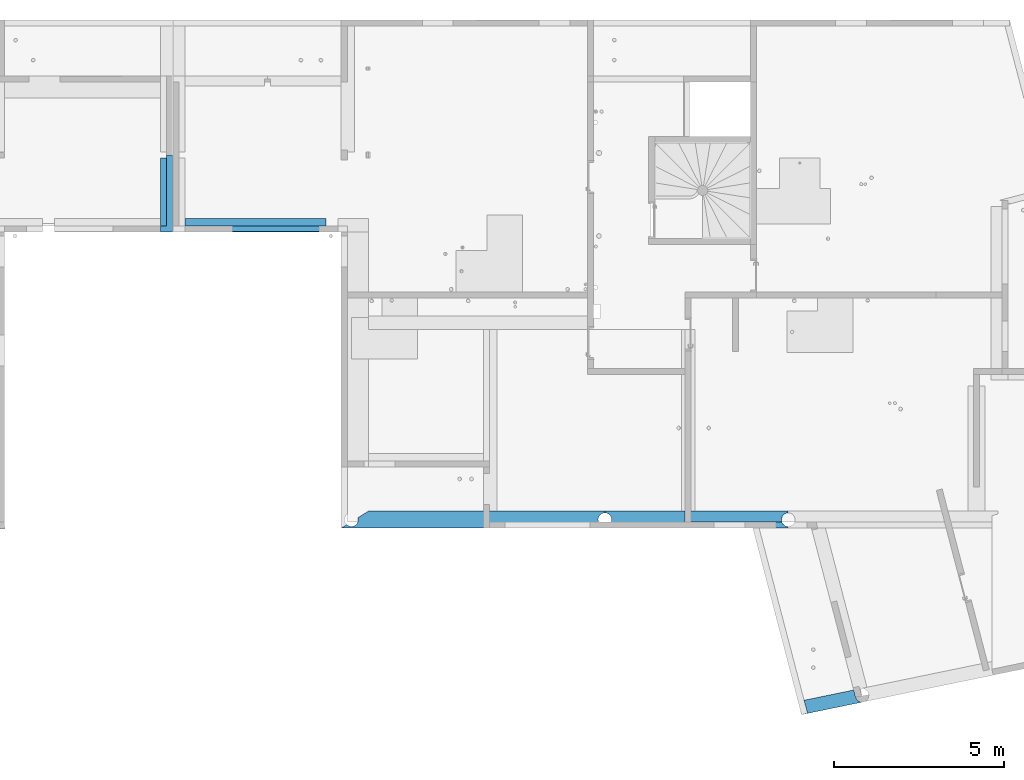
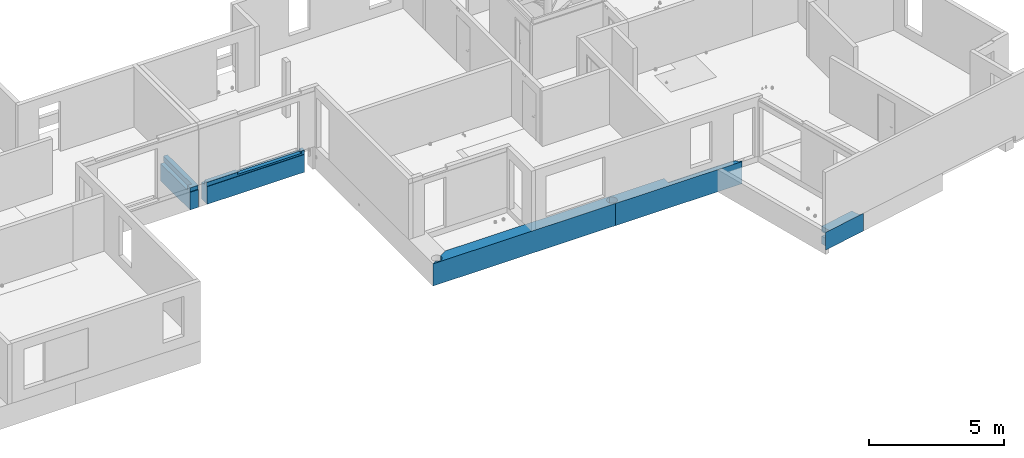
# One storey, part 22 of 34: 5 beams.
"""IFC2X3 building model written with IfcOpenShell, lengths in centimetres."""

from ifc_helpers import new_model, entity, si_unit, converted_unit, derived_unit, direction, frame, origin, place, context, subcontext, project, spatial, faceted_brep, material, material_list, type_object, element, save


model = new_model("IFC2X3")

# Units and contexts
model_context = context("Model", 3, precision=0.001, world=origin(), true_north=direction((6.12303176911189e-17, 1.0)))
body_context = subcontext(model_context, "Body", "Model", "MODEL_VIEW")
ifc_project = project(units=[si_unit("LENGTHUNIT", "METRE", prefix="CENTI"), si_unit("AREAUNIT", "SQUARE_METRE"), si_unit("VOLUMEUNIT", "CUBIC_METRE"), converted_unit("PLANEANGLEUNIT", "DEGREE", entity("IfcRatioMeasure", 0.0174532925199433), si_unit("PLANEANGLEUNIT", "RADIAN"), dimensions=[0, 0, 0, 0, 0, 0, 0]), si_unit("MASSUNIT", "GRAM", prefix="KILO"), derived_unit("MASSDENSITYUNIT", [(si_unit("MASSUNIT", "GRAM", prefix="KILO"), 1), (si_unit("LENGTHUNIT", "METRE"), -3)]), si_unit("TIMEUNIT", "SECOND"), si_unit("FREQUENCYUNIT", "HERTZ"), si_unit("THERMODYNAMICTEMPERATUREUNIT", "DEGREE_CELSIUS"), derived_unit("THERMALTRANSMITTANCEUNIT", [(si_unit("MASSUNIT", "GRAM", prefix="KILO"), 1), (si_unit("THERMODYNAMICTEMPERATUREUNIT", "KELVIN"), -1), (si_unit("TIMEUNIT", "SECOND"), -3)]), derived_unit("VOLUMETRICFLOWRATEUNIT", [(si_unit("LENGTHUNIT", "METRE"), 3), (si_unit("TIMEUNIT", "SECOND"), -1)]), si_unit("ELECTRICCURRENTUNIT", "AMPERE"), si_unit("ELECTRICVOLTAGEUNIT", "VOLT"), si_unit("POWERUNIT", "WATT"), si_unit("FORCEUNIT", "NEWTON"), si_unit("ILLUMINANCEUNIT", "LUX"), si_unit("LUMINOUSFLUXUNIT", "LUMEN"), si_unit("LUMINOUSINTENSITYUNIT", "CANDELA"), derived_unit("USERDEFINED", [(si_unit("MASSUNIT", "GRAM", prefix="KILO"), -1), (si_unit("LENGTHUNIT", "METRE"), -2), (si_unit("TIMEUNIT", "SECOND"), 3), (si_unit("LUMINOUSFLUXUNIT", "LUMEN"), 1)]), derived_unit("LINEARVELOCITYUNIT", [(si_unit("LENGTHUNIT", "METRE"), 1), (si_unit("TIMEUNIT", "SECOND"), -1)]), si_unit("PRESSUREUNIT", "PASCAL"), derived_unit("USERDEFINED", [(si_unit("LENGTHUNIT", "METRE"), -2), (si_unit("MASSUNIT", "GRAM", prefix="KILO"), 1), (si_unit("TIMEUNIT", "SECOND"), -2)])], contexts=[model_context])

# Site, building, storey
site_placement = place(None, origin())
site = spatial("IfcSite", under=ifc_project, at=site_placement, Name="Default", CompositionType="ELEMENT")
building_placement = place(site_placement, origin())
building = spatial("IfcBuilding", under=site, at=building_placement, Name="CAGE 03", CompositionType="ELEMENT")
storey_placement = place(building_placement, frame((0.0, 0.0, 340.0)))
storey = spatial("IfcBuildingStorey", under=building, at=storey_placement, Name="R+1", CompositionType="ELEMENT", Elevation=340.0)

# Beams
ifc_material_1 = material(Name="Béton, C25/30")
ifc_material_2 = material(Name="<Unnamed>")
ifc_material_list = material_list([ifc_material_1, ifc_material_2])
beam_type_1 = type_object("IfcBeamType", Name="40x80ht", PredefinedType="BEAM", material=ifc_material_list)
beam_1_placement = place(storey_placement, frame((10640.4845473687, 3247.32910427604, -80.0), z_axis=(0.0, 0.0, 1.0), x_axis=(0.979414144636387, 0.201861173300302, 0.0)))
element("IfcBeam", 1, at=beam_1_placement, inside=storey, type_object=beam_type_1, material=ifc_material_1, Name="BBGO-Poutre rect:40x80ht", ObjectType="BBGO-Poutre rect:40x80ht", context=body_context, shape_type="Brep", body=[
    faceted_brep([(186.210205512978, 0.0, 0.0), (186.210205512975, 0.0, 80.0), (0.0, 0.0, 80.0), (0.0, 0.0, 0.0), (181.905287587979, 0.468802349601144, 0.0), (17.9754904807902, 0.939011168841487, 0.0), (15.9350062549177, 40.0, 0.0), (165.138167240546, 40.0, 0.0), (166.237438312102, 18.9566542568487, 0.0), (166.930178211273, 14.6820542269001, 0.0), (168.526770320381, 10.6567607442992, 0.0), (170.952366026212, 7.06948051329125, 0.0), (174.093252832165, 4.08838607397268, 0.0), (177.802185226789, 1.85323183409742, 0.0), (165.138167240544, 40.0, 35.0), (15.9350062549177, 40.0, 35.0), (165.138167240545, 40.0, 80.0), (165.138167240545, 40.0, 55.0), (15.9350062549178, 40.0, 55.0), (15.9350062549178, 40.0, 80.0), (170.952366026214, 7.06948051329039, 80.0), (168.526770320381, 10.6567607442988, 80.0), (166.930178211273, 14.6820542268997, 80.0), (166.237438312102, 18.9566542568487, 80.0), (17.9754904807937, 0.939011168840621, 80.0), (181.905287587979, 0.468802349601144, 80.0), (177.802185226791, 1.85323183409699, 80.0), (174.093252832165, 4.08838607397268, 80.0), (17.0842514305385, 18.0, 55.0), (17.0842514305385, 18.0, 35.0), (166.237438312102, 18.9566542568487, 55.0), (166.237438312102, 18.9566542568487, 35.0), (166.287412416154, 18.0, 35.0), (166.287412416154, 18.0, 55.0)], [[[0, 1, 2, 3]], [[4, 0, 3, 5, 6, 7, 8, 9, 10, 11, 12, 13]], [[14, 7, 6, 15]], [[16, 17, 18, 19]], [[20, 21, 22, 23, 16, 19, 24, 2, 1, 25, 26, 27]], [[5, 3, 2, 24]], [[24, 19, 18, 28, 29, 15, 6, 5]], [[16, 23, 30, 17]], [[14, 31, 8, 7]], [[29, 32, 31, 14, 15]], [[28, 18, 17, 30, 33]], [[33, 30, 31, 32]], [[33, 32, 29, 28]], [[9, 8, 31, 30, 23, 22]], [[10, 9, 22, 21]], [[11, 10, 21, 20]], [[13, 12, 27, 26]], [[4, 13, 26, 25]], [[0, 4, 25, 1]], [[27, 12, 11, 20]]]),
])
beam_type_2 = type_object("IfcBeamType", Name="BBGO-Poutre rect:40x100ht", PredefinedType="BEAM")
beam_2_placement = place(storey_placement, frame((8824.36582014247, 4668.66066607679, -100.0)))
element("IfcBeam", 2, at=beam_2_placement, inside=storey, type_object=beam_type_2, material=ifc_material_1, Name="BBGO-Poutre rect:40x100ht", ObjectType="BBGO-Poutre rect:40x100ht", context=body_context, shape_type="Brep", body=[
    faceted_brep([(0.0, 40.0, 0.0), (0.0, 0.0, 0.0), (0.0, 0.0, 80.0), (0.0, 2.0, 80.0), (0.0, 2.0, 99.6099582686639), (0.0, 0.0, 99.5899561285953), (0.0, 0.0, 100.0), (0.0, 18.0, 100.0), (0.0, 18.0, 77.0), (0.0, 40.0, 77.0), (415.999075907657, 0.0, 100.0), (395.0, 0.0, 100.0), (395.0, 0.0, 99.5899561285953), (415.999075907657, 0.0, 99.5899561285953), (415.999075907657, 40.0, 0.0), (415.999075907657, 0.0, 0.0), (415.999075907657, 40.0, 77.0), (415.999075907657, 18.0, 100.0), (403.0, 18.0, 100.0), (403.0, 2.0, 100.0), (395.0, 2.0, 100.0), (415.999075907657, 18.0, 77.0), (415.999075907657, 2.0, 99.6099582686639), (415.999075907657, 2.0, 80.0), (415.999075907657, 0.0, 80.0), (132.0, 18.0, 100.0), (132.0, 18.0, 88.0), (403.0, 18.0, 88.0), (140.0, 0.0, 100.0), (140.0, 0.0, 99.5899561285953), (140.0, 2.0, 99.6099582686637), (140.0, 2.0, 100.0), (395.0, 2.0, 99.6099582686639), (132.0, 2.0, 88.0), (403.0, 2.0, 88.0), (132.0, 2.0, 100.0), (132.0, 2.0, 99.6099582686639), (403.0, 2.0, 99.6099582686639)], [[[0, 1, 2, 3, 4, 5, 6, 7, 8, 9]], [[10, 11, 12, 13]], [[1, 0, 14, 15]], [[14, 0, 9, 16]], [[10, 17, 18, 19, 20, 11]], [[15, 14, 16, 21, 17, 10, 13, 22, 23, 24]], [[9, 8, 21, 16]], [[8, 7, 25, 26, 27, 18, 17, 21]], [[28, 29, 30, 31]], [[12, 11, 20, 32]], [[26, 33, 34, 27]], [[7, 6, 28, 31, 35, 25]], [[23, 3, 2, 24]], [[36, 30, 29, 5, 4]], [[37, 34, 33, 36, 4, 3, 23, 22]], [[37, 32, 20, 19]], [[30, 36, 35, 31]], [[28, 6, 5, 29]], [[1, 15, 24, 2]], [[32, 37, 22, 13, 12]], [[34, 37, 19, 18, 27]], [[36, 33, 26, 25, 35]]]),
])
beam_type_3 = type_object("IfcBeamType", Name="BBGO-Poutre rect:50x100ht", PredefinedType="BEAM")
beam_3_placement = place(storey_placement, frame((9284.36582014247, 3796.66066607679, -100.0)))
element("IfcBeam", 3, at=beam_3_placement, inside=storey, type_object=beam_type_3, material=ifc_material_1, Name="BBGO-Poutre rect:50x100ht", ObjectType="BBGO-Poutre rect:50x100ht", context=body_context, shape_type="Brep", body=[
    faceted_brep([(777.0, 0.0, 0.0), (777.0, 0.0, 100.0), (437.0, 0.0, 100.0), (419.0, 0.0, 100.0), (0.0, 0.0, 100.0), (0.0, 0.0, 0.0), (772.549581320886, 5.50144175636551, 0.0), (777.0, 5.0, 0.0), (16.455365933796, 10.284603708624, 0.0), (20.1925931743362, 7.56971683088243, 0.0), (24.4529837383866, 5.78462567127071, 0.0), (29.0092726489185, 5.02455358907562, 0.0), (33.6184106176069, 5.33004563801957, 0.0), (38.0345291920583, 6.68480574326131, 0.0), (42.0220562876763, 9.01656599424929, 0.0), (45.3682824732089, 12.2009416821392, 0.0), (47.8947076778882, 16.0680664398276, 0.0), (49.4665630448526, 20.4116535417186, 0.0), (50.0, 25.0, 0.0), (49.7895456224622, 27.8937664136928, 0.0), (49.1626115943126, 30.7266322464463, 0.0), (80.0, 50.0, 0.0), (777.0, 50.0, 0.0), (777.0, 45.0, 0.0), (772.549581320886, 44.4985582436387, 0.0), (768.322325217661, 43.0193773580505, 0.0), (764.530203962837, 40.6366296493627, 0.0), (761.363370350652, 37.4697960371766, 0.0), (758.980622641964, 33.6776747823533, 0.0), (757.501441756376, 29.4504186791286, 0.0), (757.0, 25.0, 0.0), (757.501441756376, 20.5495813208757, 0.0), (758.980622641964, 16.3223252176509, 0.0), (761.363370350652, 12.5302039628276, 0.0), (764.530203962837, 9.36337035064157, 0.0), (768.322325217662, 6.98062264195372, 0.0), (80.0, 50.0, 55.0), (419.0, 50.0, 55.0), (419.0, 50.0, 75.0), (80.0, 50.0, 75.0), (80.0, 50.0, 100.0), (419.0, 50.0, 100.0), (459.0, 50.0, 100.0), (777.0, 50.0, 100.0), (772.549581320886, 44.4985582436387, 100.0), (777.0, 45.0, 100.0), (49.1626115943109, 30.7266322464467, 100.0), (49.7895456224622, 27.8937664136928, 100.0), (50.0, 25.0, 100.0), (49.7332815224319, 22.7058267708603, 100.0), (49.4665630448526, 20.4116535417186, 100.0), (48.6806353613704, 18.2398599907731, 100.0), (47.8947076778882, 16.0680664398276, 100.0), (45.3682824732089, 12.2009416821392, 100.0), (42.0220562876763, 9.01656599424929, 100.0), (38.0345291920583, 6.68480574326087, 100.0), (33.6184106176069, 5.33004563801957, 100.0), (29.0092726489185, 5.02455358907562, 100.0), (24.4529837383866, 5.78462567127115, 100.0), (20.1925931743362, 7.56971683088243, 100.0), (16.455365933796, 10.2846037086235, 100.0), (777.0, 5.0, 100.0), (772.549581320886, 5.50144175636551, 100.0), (768.322325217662, 6.98062264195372, 100.0), (764.530203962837, 9.36337035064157, 100.0), (761.363370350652, 12.5302039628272, 100.0), (758.980622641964, 16.3223252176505, 100.0), (757.501441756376, 20.5495813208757, 100.0), (757.0, 25.0, 100.0), (757.501441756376, 29.4504186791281, 100.0), (758.980622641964, 33.6776747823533, 100.0), (761.363370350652, 37.4697960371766, 100.0), (764.530203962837, 40.6366296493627, 100.0), (768.322325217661, 43.0193773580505, 100.0), (49.1626115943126, 30.7266322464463, 30.3099205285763), (49.1626115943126, 30.7266322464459, 55.0), (49.1626115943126, 30.7266322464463, 75.0), (48.7349939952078, 18.0, 55.0), (48.7349939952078, 18.0, 75.0), (49.6812077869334, 21.4433077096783, 55.0), (50.0, 25.0, 55.0), (50.0, 25.0, 30.3099188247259), (50.0, 25.0, 75.0), (49.6812077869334, 21.4433077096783, 75.0), (49.7895455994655, 27.8937665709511, 34.0087949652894), (49.7895456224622, 27.8937664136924, 55.0), (49.7895456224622, 27.8937664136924, 75.0), (419.0, 18.0, 55.0), (419.0, 18.0, 75.0)], [[[0, 1, 2, 3, 4, 5]], [[6, 7, 0, 5, 8, 9, 10, 11, 12, 13, 14, 15, 16, 17, 18, 19, 20, 21, 22, 23, 24, 25, 26, 27, 28, 29, 30, 31, 32, 33, 34, 35]], [[21, 36, 37, 38, 39, 40, 41, 42, 43, 22]], [[44, 45, 43, 42, 41, 40, 46, 47, 48, 49, 50, 51, 52, 53, 54, 55, 56, 57, 58, 59, 60, 4, 3, 2, 1, 61, 62, 63, 64, 65, 66, 67, 68, 69, 70, 71, 72, 73]], [[31, 30, 68, 67]], [[32, 31, 67, 66]], [[33, 32, 66, 65]], [[65, 64, 34, 33]], [[35, 34, 64, 63]], [[6, 35, 63, 62]], [[7, 6, 62, 61]], [[24, 23, 45, 44]], [[25, 24, 44, 73]], [[26, 25, 73, 72]], [[72, 71, 27, 26]], [[28, 27, 71, 70]], [[29, 28, 70, 69]], [[30, 29, 69, 68]], [[8, 5, 4, 60]], [[21, 20, 74, 75, 36]], [[39, 76, 46, 40]], [[1, 0, 7, 61]], [[45, 23, 22, 43]], [[9, 8, 60, 59]], [[9, 59, 58, 10]], [[56, 55, 13, 12]], [[12, 11, 57, 56]], [[11, 10, 58, 57]], [[14, 13, 55, 54]], [[54, 53, 15, 14]], [[16, 15, 53, 52]], [[17, 16, 77]], [[77, 16, 52, 78]], [[79, 18, 17]], [[79, 80, 81, 18]], [[77, 79, 17]], [[51, 50, 78, 52]], [[49, 48, 82]], [[83, 49, 82]], [[83, 50, 49]], [[78, 50, 83]], [[20, 19, 74]], [[75, 84, 85]], [[46, 76, 86, 47]], [[84, 19, 81, 80]], [[18, 81, 19]], [[85, 84, 80]], [[86, 82, 48, 47]], [[19, 84, 75, 74]], [[80, 79, 77, 87, 37, 36, 75, 85]], [[82, 86, 76, 39, 38, 88, 78, 83]], [[38, 37, 87, 88]], [[88, 87, 77, 78]]]),
])
beam_4_placement = place(storey_placement, frame((10061.2070701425, 3796.66066607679, -100.0)))
element("IfcBeam", 4, at=beam_4_placement, inside=storey, type_object=beam_type_3, material=ifc_material_1, Name="BBGO-Poutre rect:50x100ht", ObjectType="BBGO-Poutre rect:50x100ht", context=body_context, shape_type="Brep", body=[
    faceted_brep([(454.420952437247, 0.0, 0.0), (540.15875, 0.0, 0.0), (540.15875, 0.0, 100.0), (504.158749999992, 0.0, 100.0), (454.420952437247, 0.0, 100.0), (435.817262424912, 0.0, 100.0), (0.158749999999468, 0.0, 100.0), (0.158749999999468, 0.0, 0.0), (435.817262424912, 0.0, 0.0), (535.708331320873, 5.50144175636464, 0.0), (540.15875, 5.0, 0.0), (0.158749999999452, 5.0, 0.0), (4.60916867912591, 5.50144175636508, 0.0), (8.83642478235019, 6.98062264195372, 0.0), (12.6285460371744, 9.36337035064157, 0.0), (15.79537964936, 12.5302039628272, 0.0), (18.1781273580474, 16.3223252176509, 0.0), (19.657308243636, 20.5495813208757, 0.0), (20.15875, 25.0, 0.0), (19.657308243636, 29.4504186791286, 0.0), (18.1781273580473, 33.6776747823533, 0.0), (15.7953796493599, 37.4697960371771, 0.0), (12.6285460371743, 40.6366296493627, 0.0), (8.83642478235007, 43.0193773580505, 0.0), (4.60916867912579, 44.4985582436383, 0.0), (0.158749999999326, 45.0, 0.0), (0.15874999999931, 50.0, 0.0), (540.15875, 50.0, 0.0), (540.15875, 45.0, 0.0), (535.708331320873, 44.4985582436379, 0.0), (531.481075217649, 43.0193773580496, 0.0), (527.688953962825, 40.6366296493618, 0.0), (524.522120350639, 37.4697960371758, 0.0), (522.139372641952, 33.6776747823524, 0.0), (520.660191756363, 29.4504186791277, 0.0), (520.158749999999, 25.0, 0.0), (520.660191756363, 20.5495813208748, 0.0), (522.139372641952, 16.3223252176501, 0.0), (524.522120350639, 12.5302039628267, 0.0), (527.688953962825, 9.3633703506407, 0.0), (531.481075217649, 6.98062264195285, 0.0), (265.158749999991, 50.0, 77.0), (540.15875, 50.0, 77.0), (0.15874999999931, 50.0, 100.0), (236.158749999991, 50.0, 100.0), (236.158749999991, 50.0, 77.0), (19.657308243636, 29.4504186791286, 100.0), (20.15875, 25.0, 100.0), (19.657308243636, 20.5495813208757, 100.0), (18.1781273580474, 16.3223252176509, 100.0), (15.79537964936, 12.5302039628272, 100.0), (12.6285460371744, 9.36337035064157, 100.0), (8.83642478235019, 6.98062264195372, 100.0), (4.60916867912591, 5.50144175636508, 100.0), (0.158749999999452, 5.0, 100.0), (540.15875, 5.0, 100.0), (536.140226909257, 5.40787218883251, 100.0), (532.287325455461, 6.61411749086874, 100.0), (528.755327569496, 8.56948093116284, 100.0), (525.688287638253, 11.1939969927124, 100.0), (523.210855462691, 14.38073115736, 100.0), (521.423756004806, 18.0, 100.0), (504.158749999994, 18.0, 100.0), (236.158749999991, 18.0, 100.0), (0.158749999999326, 45.0, 100.0), (4.60916867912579, 44.4985582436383, 100.0), (8.83642478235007, 43.0193773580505, 100.0), (12.6285460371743, 40.6366296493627, 100.0), (15.7953796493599, 37.4697960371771, 100.0), (18.1781273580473, 33.6776747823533, 100.0), (520.477542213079, 21.4433077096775, 77.0), (521.423756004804, 18.0, 77.0), (520.158749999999, 25.0, 77.0), (540.15875, 45.0, 77.0), (535.708331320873, 44.4985582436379, 77.0), (531.481075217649, 43.0193773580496, 77.0), (527.688953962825, 40.6366296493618, 77.0), (524.522120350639, 37.4697960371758, 77.0), (522.139372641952, 33.6776747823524, 77.0), (520.660191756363, 29.4504186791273, 77.0), (236.158749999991, 18.0, 77.0)], [[[0, 1, 2, 3, 4, 5, 6, 7, 8]], [[9, 10, 1, 0, 8, 7, 11, 12, 13, 14, 15, 16, 17, 18, 19, 20, 21, 22, 23, 24, 25, 26, 27, 28, 29, 30, 31, 32, 33, 34, 35, 36, 37, 38, 39, 40]], [[41, 42, 27, 26, 43, 44, 45]], [[46, 47, 48, 49, 50, 51, 52, 53, 54, 6, 5, 4, 3, 2, 55, 56, 57, 58, 59, 60, 61, 62, 63, 44, 43, 64, 65, 66, 67, 68, 69]], [[12, 11, 54, 53]], [[13, 12, 53, 52]], [[14, 13, 52, 51]], [[51, 50, 15, 14]], [[16, 15, 50, 49]], [[17, 16, 49, 48]], [[18, 17, 48, 47]], [[19, 18, 47, 46]], [[46, 69, 20, 19]], [[20, 69, 68, 21]], [[68, 67, 22, 21]], [[23, 22, 67, 66]], [[24, 23, 66, 65]], [[25, 24, 65, 64]], [[36, 35, 70]], [[37, 36, 71]], [[38, 37, 60]], [[70, 35, 72]], [[61, 60, 71]], [[37, 71, 60]], [[70, 71, 36]], [[60, 59, 38]], [[40, 39, 58]], [[9, 40, 57]], [[10, 9, 56]], [[58, 39, 59]], [[40, 58, 57]], [[57, 56, 9]], [[56, 55, 10]], [[38, 59, 39]], [[29, 28, 73, 74]], [[30, 29, 74, 75]], [[31, 30, 75, 76]], [[76, 77, 32, 31]], [[33, 32, 77, 78]], [[34, 33, 78, 79]], [[35, 34, 79, 72]], [[2, 1, 10, 55]], [[73, 28, 27, 42]], [[74, 73, 42, 41, 45, 80, 71, 70, 72, 79, 78, 77, 76, 75]], [[62, 61, 71, 80, 63]], [[44, 63, 80, 45]], [[43, 26, 25, 64]], [[54, 11, 7, 6]]]),
])
beam_type_4 = type_object("IfcBeamType", Name="BBGO-Poutre rect:35x100ht", PredefinedType="BEAM")
beam_5_placement = place(storey_placement, frame((8752.36582014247, 4668.66066607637, -100.0), z_axis=(0.0, 0.0, 1.0), x_axis=(0.0, 1.0, 0.0)))
element("IfcBeam", 5, at=beam_5_placement, inside=storey, type_object=beam_type_4, material=ifc_material_1, Name="BBGO-Poutre rect:35x100ht", ObjectType="BBGO-Poutre rect:35x100ht", context=body_context, shape_type="Brep", body=[
    faceted_brep([(0.0, 0.0, 0.0), (0.0, -35.0, 0.0), (0.0, -35.0, 80.0), (0.0, -32.0, 80.0), (0.0, -32.0, 81.0), (0.0, -31.0, 81.4663076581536), (0.0, -31.0, 80.0), (0.0, 0.0, 80.0), (218.0, 0.0, 0.0), (40.0, 0.0, 0.0), (2.0, 0.0, 80.0), (2.0, 0.0, 99.6099582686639), (0.0, 0.0, 99.589956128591), (0.0, 0.0, 100.0), (18.0, 0.0, 100.0), (18.0, 0.0, 77.0), (40.0, 0.0, 77.0), (218.0, 0.0, 77.0), (218.0, -35.0, 0.0), (227.0, -35.0, 100.0), (18.0, -35.0, 100.0), (0.0, -35.0, 100.0), (0.0, -35.0, 99.589956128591), (2.0, -35.0, 99.6099582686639), (2.0, -35.0, 80.0), (218.0, -35.0, 77.0), (227.0, -35.0, 77.0), (227.0, -17.0, 100.0), (18.0, -17.0, 100.0), (227.0, -17.0, 77.0), (218.0, -17.0, 77.0), (18.0, -17.0, 77.0), (2.0, -31.0, 80.0), (2.0, -32.0, 80.0), (2.0, -31.0, 81.4663076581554), (2.0, -32.0, 81.0)], [[[0, 1, 2, 3, 4, 5, 6, 7]], [[8, 9, 0, 7, 10, 11, 12, 13, 14, 15, 16, 17]], [[1, 0, 9, 8, 18]], [[19, 20, 21, 22, 23, 24, 2, 1, 18, 25, 26]], [[13, 21, 20, 19, 27, 28, 14]], [[19, 26, 29, 27]], [[8, 17, 30, 25, 18]], [[26, 25, 30, 29]], [[15, 31, 30, 17, 16]], [[28, 27, 29, 30, 31]], [[31, 15, 14, 28]], [[6, 32, 10, 7]], [[11, 23, 22, 12]], [[33, 24, 23, 11, 10, 32, 34, 35]], [[33, 35, 4, 3]], [[34, 32, 6, 5]], [[35, 34, 5, 4]], [[21, 13, 12, 22]], [[24, 33, 3, 2]]]),
])

save(model, "model.ifc")
